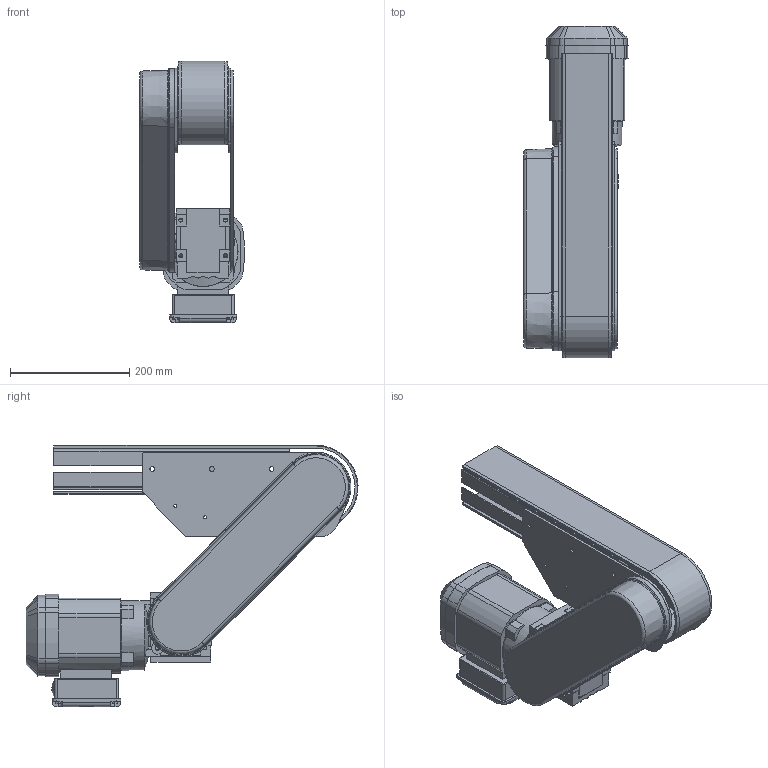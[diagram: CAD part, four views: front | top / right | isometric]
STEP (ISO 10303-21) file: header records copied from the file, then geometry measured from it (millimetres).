
FILE_DESCRIPTION((''),'2;1');
FILE_NAME('C:\Vault Klient\Projekt\Koncept konstruktion\Serie 530 Drivenhet\530-3324H.stp','2010-12-09T08:10:12',('Mathias'),(''),'Autodesk Inventor 2011','Autodesk Inventor 2011','');
FILE_SCHEMA(('AUTOMOTIVE_DESIGN { 1 0 10303 214 1 1 1 1 }'));
Length unit declared in the file: millimetre
Products named in the file (1): 530-3324H
Bounding box: 175.64 x 556.74 x 438.07 mm (x, y, z)
Volume: 6027829.2 mm3; surface area: 991077.6 mm2
Topology: 1 solids, 4 shells, 713 faces, 1956 edges, 1270 vertices
Faces by surface type: plane 422, cylinder 247, cone 16, bspline 16, torus 10, sphere 2
Full cylindrical faces by diameter (mm): 5 x4, 6 x9, 6.6 x8, 6.912 x4, 8 x13, 8.2 x4, 20 x1, 25 x1, 26 x2, 28 x1, 30 x2, 62 x2, 117 x1
Entity records: 23415 total; most frequent: CARTESIAN_POINT 4359, DIRECTION 3819, ORIENTED_EDGE 3772, EDGE_CURVE 1886, AXIS2_PLACEMENT_3D 1281, VERTEX_POINT 1257, VECTOR 1257, LINE 1257
